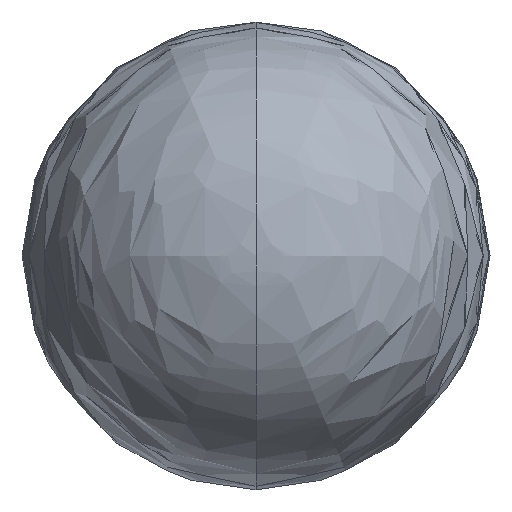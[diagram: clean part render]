
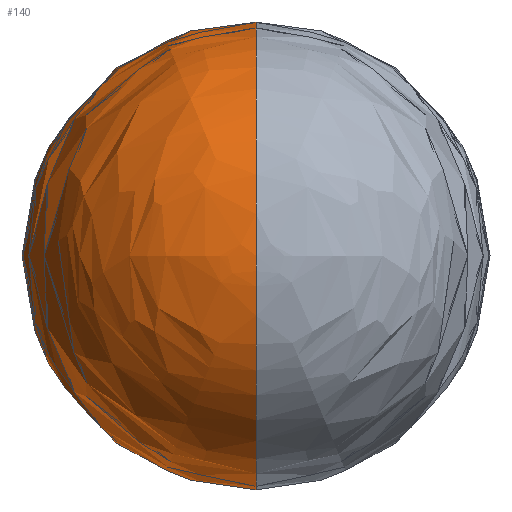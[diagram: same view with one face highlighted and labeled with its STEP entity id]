
A CAD part, front view. The second image highlights one B-rep face of the part: STEP entity #140.
In plain terms, the highlighted free-form (B-spline) face has degree [3, 3] with [8, 4] control points.
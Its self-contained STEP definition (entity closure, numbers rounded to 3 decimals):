
#64 = CARTESIAN_POINT ( 'NONE',  ( 0., -711.232, 58.934 ) ) ;
#138 = B_SPLINE_CURVE_WITH_KNOTS ( 'NONE', 3,
 ( #3528, #2638, #2367, #2321, #2338, #2751, #2721, #2727 ),
 .UNSPECIFIED., .F., .F.,
 ( 4, 1, 1, 1, 1, 4 ),
 ( 0., 0.225, 0.267, 0.403, 0.478, 1. ),
 .UNSPECIFIED. ) ;
#140 = ADVANCED_FACE ( 'NONE', ( #1944 ), #2035, .T. ) ;
#179 = EDGE_LOOP ( 'NONE', ( #1413, #3400, #3247 ) ) ;
#252 = CARTESIAN_POINT ( 'NONE',  ( 0., -335.159, 17.5 ) ) ;
#352 = CARTESIAN_POINT ( 'NONE',  ( 0., -711.232, -58.934 ) ) ;
#445 = AXIS2_PLACEMENT_3D ( 'NONE', #2832, #2809, #2817 ) ;
#509 = CARTESIAN_POINT ( 'NONE',  ( -117.868, -711.232, 58.934 ) ) ;
#599 = CARTESIAN_POINT ( 'NONE',  ( 0., -985.159, 0. ) ) ;
#752 = CARTESIAN_POINT ( 'NONE',  ( 0., -985.159, 0. ) ) ;
#845 = CARTESIAN_POINT ( 'NONE',  ( 0., -335.159, -17.5 ) ) ;
#1030 = CARTESIAN_POINT ( 'NONE',  ( 0., -711.232, -58.934 ) ) ;
#1141 = CARTESIAN_POINT ( 'NONE',  ( 0., -647.344, 17.5 ) ) ;
#1276 = CARTESIAN_POINT ( 'NONE',  ( -35., -335.159, 17.5 ) ) ;
#1413 = ORIENTED_EDGE ( 'NONE', *, *, #2361, .T. ) ;
#1707 = CARTESIAN_POINT ( 'NONE',  ( -35., -647.344, 17.5 ) ) ;
#1905 = CARTESIAN_POINT ( 'NONE',  ( 0., -985.159, 0. ) ) ;
#1911 = CARTESIAN_POINT ( 'NONE',  ( 0., -985.159, 31.091 ) ) ;
#1944 = FACE_OUTER_BOUND ( 'NONE', #179, .T. ) ;
#2035 =( BOUNDED_SURFACE ( )  B_SPLINE_SURFACE ( 3, 3, ( 
 ( #4400, #2101, #1905, #599 ),
 ( #1911, #3776, #2546, #4451 ),
 ( #3668, #2058, #2217, #3448 ),
 ( #3289, #3291, #3282, #3284 ),
 ( #3272, #3240, #3249, #3643 ),
 ( #64, #509, #2124, #1030 ),
 ( #1141, #1707, #3743, #4215 ),
 ( #4528, #1276, #3783, #4723 ) ),
 .UNSPECIFIED., .F., .F., .F. ) 
 B_SPLINE_SURFACE_WITH_KNOTS ( ( 4, 1, 1, 1, 1, 4 ),
 ( 4, 4 ),
 ( 0., 0.225, 0.267, 0.403, 0.478, 1. ),
 ( 0., 1. ),
 .UNSPECIFIED. ) 
 GEOMETRIC_REPRESENTATION_ITEM ( )  RATIONAL_B_SPLINE_SURFACE ( (
 ( 1., 0.333, 0.333, 1.),
 ( 1., 0.333, 0.333, 1.),
 ( 1., 0.333, 0.333, 1.),
 ( 1., 0.333, 0.333, 1.),
 ( 1., 0.333, 0.333, 1.),
 ( 1., 0.333, 0.333, 1.),
 ( 1., 0.333, 0.333, 1.),
 ( 1., 0.333, 0.333, 1.) ) ) 
 REPRESENTATION_ITEM ( '' )  SURFACE ( )  );
#2058 = CARTESIAN_POINT ( 'NONE',  ( -131.204, -966.602, 65.602 ) ) ;
#2063 = CARTESIAN_POINT ( 'NONE',  ( 0., -899.248, -82.036 ) ) ;
#2068 = CARTESIAN_POINT ( 'NONE',  ( 0., -966.602, -65.602 ) ) ;
#2076 = CARTESIAN_POINT ( 'NONE',  ( 0., -985.159, -31.091 ) ) ;
#2101 = CARTESIAN_POINT ( 'NONE',  ( 0., -985.159, 0. ) ) ;
#2124 = CARTESIAN_POINT ( 'NONE',  ( -117.868, -711.232, -58.934 ) ) ;
#2195 = EDGE_CURVE ( 'NONE', #4640, #4039, #2480, .T. ) ;
#2217 = CARTESIAN_POINT ( 'NONE',  ( -131.204, -966.602, -65.602 ) ) ;
#2321 = CARTESIAN_POINT ( 'NONE',  ( 0., -899.248, 82.036 ) ) ;
#2338 = CARTESIAN_POINT ( 'NONE',  ( 0., -846.724, 79.369 ) ) ;
#2361 = EDGE_CURVE ( 'NONE', #4039, #4688, #138, .T. ) ;
#2367 = CARTESIAN_POINT ( 'NONE',  ( 0., -966.602, 65.602 ) ) ;
#2480 = B_SPLINE_CURVE_WITH_KNOTS ( 'NONE', 3,
 ( #4467, #4559, #352, #4446, #2063, #2068, #2076, #752 ),
 .UNSPECIFIED., .F., .F.,
 ( 4, 1, 1, 1, 1, 4 ),
 ( 0., 0.522, 0.597, 0.733, 0.775, 1. ),
 .UNSPECIFIED. ) ;
#2493 = EDGE_CURVE ( 'NONE', #4640, #4688, #3488, .T. ) ;
#2546 = CARTESIAN_POINT ( 'NONE',  ( -62.183, -985.159, -31.091 ) ) ;
#2638 = CARTESIAN_POINT ( 'NONE',  ( 0., -985.159, 31.091 ) ) ;
#2721 = CARTESIAN_POINT ( 'NONE',  ( 0., -647.344, 17.5 ) ) ;
#2727 = CARTESIAN_POINT ( 'NONE',  ( 0., -335.159, 17.5 ) ) ;
#2751 = CARTESIAN_POINT ( 'NONE',  ( 0., -711.232, 58.934 ) ) ;
#2809 = DIRECTION ( 'NONE',  ( 0., 1., 0. ) ) ;
#2817 = DIRECTION ( 'NONE',  ( -1., 0., 0. ) ) ;
#2832 = CARTESIAN_POINT ( 'NONE',  ( 0., -335.159, 0. ) ) ;
#3240 = CARTESIAN_POINT ( 'NONE',  ( -158.739, -846.724, 79.369 ) ) ;
#3247 = ORIENTED_EDGE ( 'NONE', *, *, #2195, .T. ) ;
#3249 = CARTESIAN_POINT ( 'NONE',  ( -158.739, -846.724, -79.369 ) ) ;
#3272 = CARTESIAN_POINT ( 'NONE',  ( 0., -846.724, 79.369 ) ) ;
#3282 = CARTESIAN_POINT ( 'NONE',  ( -164.072, -899.248, -82.036 ) ) ;
#3284 = CARTESIAN_POINT ( 'NONE',  ( 0., -899.248, -82.036 ) ) ;
#3289 = CARTESIAN_POINT ( 'NONE',  ( 0., -899.248, 82.036 ) ) ;
#3291 = CARTESIAN_POINT ( 'NONE',  ( -164.072, -899.248, 82.036 ) ) ;
#3400 = ORIENTED_EDGE ( 'NONE', *, *, #2493, .F. ) ;
#3448 = CARTESIAN_POINT ( 'NONE',  ( 0., -966.602, -65.602 ) ) ;
#3488 = CIRCLE ( 'NONE', #445, 17.5 ) ;
#3528 = CARTESIAN_POINT ( 'NONE',  ( 0., -985.159, 0. ) ) ;
#3643 = CARTESIAN_POINT ( 'NONE',  ( 0., -846.724, -79.369 ) ) ;
#3668 = CARTESIAN_POINT ( 'NONE',  ( 0., -966.602, 65.602 ) ) ;
#3743 = CARTESIAN_POINT ( 'NONE',  ( -35., -647.344, -17.5 ) ) ;
#3776 = CARTESIAN_POINT ( 'NONE',  ( -62.183, -985.159, 31.091 ) ) ;
#3783 = CARTESIAN_POINT ( 'NONE',  ( -35., -335.159, -17.5 ) ) ;
#4039 = VERTEX_POINT ( 'NONE', #4441 ) ;
#4215 = CARTESIAN_POINT ( 'NONE',  ( 0., -647.344, -17.5 ) ) ;
#4400 = CARTESIAN_POINT ( 'NONE',  ( 0., -985.159, 0. ) ) ;
#4441 = CARTESIAN_POINT ( 'NONE',  ( 0., -985.159, 0. ) ) ;
#4446 = CARTESIAN_POINT ( 'NONE',  ( 0., -846.724, -79.369 ) ) ;
#4451 = CARTESIAN_POINT ( 'NONE',  ( 0., -985.159, -31.091 ) ) ;
#4467 = CARTESIAN_POINT ( 'NONE',  ( 0., -335.159, -17.5 ) ) ;
#4528 = CARTESIAN_POINT ( 'NONE',  ( 0., -335.159, 17.5 ) ) ;
#4559 = CARTESIAN_POINT ( 'NONE',  ( 0., -647.344, -17.5 ) ) ;
#4640 = VERTEX_POINT ( 'NONE', #845 ) ;
#4688 = VERTEX_POINT ( 'NONE', #252 ) ;
#4723 = CARTESIAN_POINT ( 'NONE',  ( 0., -335.159, -17.5 ) ) ;
